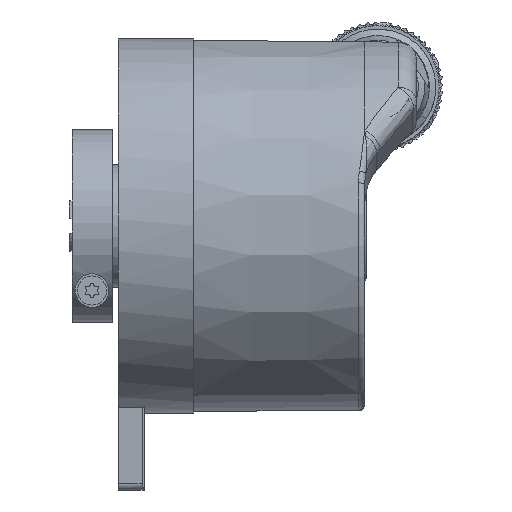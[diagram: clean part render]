
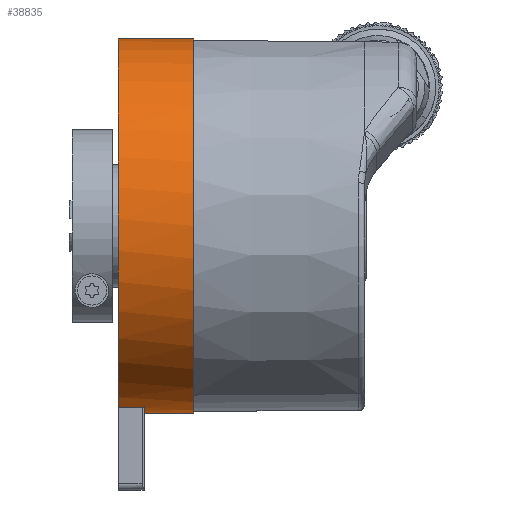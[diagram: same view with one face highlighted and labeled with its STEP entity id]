
A CAD part, front view. The second image highlights one B-rep face of the part: STEP entity #38835.
In plain terms, the highlighted cylindrical face has radius 29 mm (diameter 58 mm), a partial arc.
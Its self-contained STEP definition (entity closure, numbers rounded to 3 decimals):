
#374 = CARTESIAN_POINT ( 'NONE',  ( 8.068, 25.423, 29. ) ) ;
#399 = DIRECTION ( 'NONE',  ( 0., 0., 1. ) ) ;
#1585 = DIRECTION ( 'NONE',  ( 1., 0., 0. ) ) ;
#2071 = AXIS2_PLACEMENT_3D ( 'NONE', #32505, #44237, #399 ) ;
#3872 = CARTESIAN_POINT ( 'NONE',  ( 8.068, 25.423, -29. ) ) ;
#4315 = CARTESIAN_POINT ( 'NONE',  ( 8.068, 25.423, 29. ) ) ;
#4768 = EDGE_CURVE ( 'NONE', #21906, #37846, #19553, .T. ) ;
#4774 = LINE ( 'NONE', #4315, #24450 ) ;
#6696 = VECTOR ( 'NONE', #12316, 1000. ) ;
#9521 = EDGE_CURVE ( 'NONE', #34309, #21906, #19439, .T. ) ;
#9727 = AXIS2_PLACEMENT_3D ( 'NONE', #41835, #15533, #23960 ) ;
#10127 = AXIS2_PLACEMENT_3D ( 'NONE', #33434, #1585, #44242 ) ;
#11246 = CIRCLE ( 'NONE', #12758, 29. ) ;
#12125 = EDGE_CURVE ( 'NONE', #19152, #37846, #37538, .T. ) ;
#12316 = DIRECTION ( 'NONE',  ( -1., 0., 0. ) ) ;
#12758 = AXIS2_PLACEMENT_3D ( 'NONE', #33552, #16094, #40838 ) ;
#15533 = DIRECTION ( 'NONE',  ( 1., 0., 0. ) ) ;
#16094 = DIRECTION ( 'NONE',  ( 1., 0., 0. ) ) ;
#16542 = CARTESIAN_POINT ( 'NONE',  ( -3.622, 18.423, -28.142 ) ) ;
#19152 = VERTEX_POINT ( 'NONE', #374 ) ;
#19439 = CIRCLE ( 'NONE', #2071, 29. ) ;
#19553 = LINE ( 'NONE', #40511, #44619 ) ;
#19751 = EDGE_CURVE ( 'NONE', #24562, #40813, #11246, .T. ) ;
#21147 = ORIENTED_EDGE ( 'NONE', *, *, #40651, .F. ) ;
#21906 = VERTEX_POINT ( 'NONE', #42070 ) ;
#22080 = CARTESIAN_POINT ( 'NONE',  ( 0.378, 18.423, -28.142 ) ) ;
#23960 = DIRECTION ( 'NONE',  ( 0., 0., -1. ) ) ;
#24450 = VECTOR ( 'NONE', #35490, 1000. ) ;
#24562 = VERTEX_POINT ( 'NONE', #36007 ) ;
#26815 = CYLINDRICAL_SURFACE ( 'NONE', #10127, 29. ) ;
#28289 = EDGE_LOOP ( 'NONE', ( #21147, #39889, #34801, #38183, #31186, #36570 ) ) ;
#31186 = ORIENTED_EDGE ( 'NONE', *, *, #4768, .T. ) ;
#32505 = CARTESIAN_POINT ( 'NONE',  ( 0.378, 25.423, 0. ) ) ;
#33434 = CARTESIAN_POINT ( 'NONE',  ( 8.068, 25.423, 0. ) ) ;
#33552 = CARTESIAN_POINT ( 'NONE',  ( -3.622, 25.423, 0. ) ) ;
#34309 = VERTEX_POINT ( 'NONE', #22080 ) ;
#34801 = ORIENTED_EDGE ( 'NONE', *, *, #37011, .F. ) ;
#35490 = DIRECTION ( 'NONE',  ( 1., 0., 0. ) ) ;
#36007 = CARTESIAN_POINT ( 'NONE',  ( -3.622, 25.423, 29. ) ) ;
#36570 = ORIENTED_EDGE ( 'NONE', *, *, #12125, .F. ) ;
#37011 = EDGE_CURVE ( 'NONE', #34309, #40813, #37987, .T. ) ;
#37296 = CARTESIAN_POINT ( 'NONE',  ( 8.068, 18.423, -28.142 ) ) ;
#37418 = FACE_OUTER_BOUND ( 'NONE', #28289, .T. ) ;
#37538 = CIRCLE ( 'NONE', #9727, 29. ) ;
#37846 = VERTEX_POINT ( 'NONE', #3872 ) ;
#37987 = LINE ( 'NONE', #37296, #6696 ) ;
#38183 = ORIENTED_EDGE ( 'NONE', *, *, #9521, .T. ) ;
#38835 = ADVANCED_FACE ( 'NONE', ( #37418 ), #26815, .T. ) ;
#39889 = ORIENTED_EDGE ( 'NONE', *, *, #19751, .T. ) ;
#40511 = CARTESIAN_POINT ( 'NONE',  ( 8.068, 25.423, -29. ) ) ;
#40651 = EDGE_CURVE ( 'NONE', #24562, #19152, #4774, .T. ) ;
#40813 = VERTEX_POINT ( 'NONE', #16542 ) ;
#40838 = DIRECTION ( 'NONE',  ( 0., 0., -1. ) ) ;
#41835 = CARTESIAN_POINT ( 'NONE',  ( 8.068, 25.423, 0. ) ) ;
#42070 = CARTESIAN_POINT ( 'NONE',  ( 0.378, 25.423, -29. ) ) ;
#44237 = DIRECTION ( 'NONE',  ( 1., 0., 0. ) ) ;
#44242 = DIRECTION ( 'NONE',  ( 0., 0., -1. ) ) ;
#44484 = DIRECTION ( 'NONE',  ( 1., 0., 0. ) ) ;
#44619 = VECTOR ( 'NONE', #44484, 1000. ) ;
